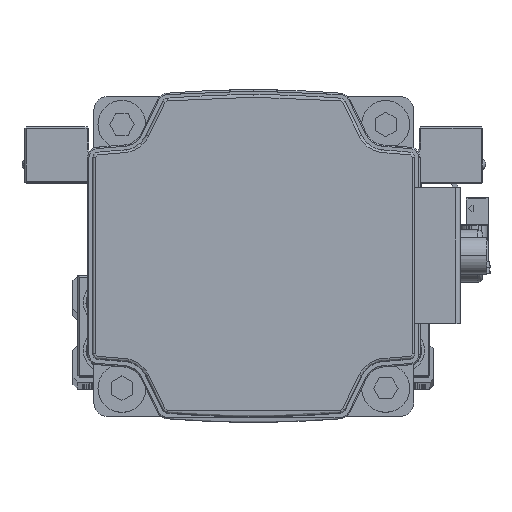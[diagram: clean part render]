
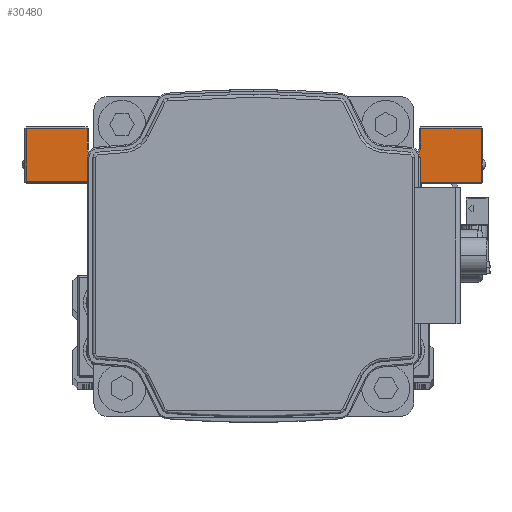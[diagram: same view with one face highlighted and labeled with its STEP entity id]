
A CAD part, top view. The second image highlights one B-rep face of the part: STEP entity #30480.
In plain terms, the highlighted planar face has unit normal (0, 0, 1) as drawn and (1, 0, 0) by its records, which use the part's own axes.
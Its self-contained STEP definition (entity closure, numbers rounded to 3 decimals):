
#274 = ORIENTED_EDGE ( 'NONE', *, *, #35941, .T. ) ;
#393 = CIRCLE ( 'NONE', #24485, 1.3 ) ;
#1546 = VERTEX_POINT ( 'NONE', #19219 ) ;
#1901 = DIRECTION ( 'NONE',  ( 0., 0., 1. ) ) ;
#2054 = DIRECTION ( 'NONE',  ( 0., 0., -1. ) ) ;
#2231 = VECTOR ( 'NONE', #35775, 1000. ) ;
#2294 = CARTESIAN_POINT ( 'NONE',  ( 45., 7.5, -19.7 ) ) ;
#2735 = LINE ( 'NONE', #15906, #9998 ) ;
#3123 = VECTOR ( 'NONE', #2054, 1000. ) ;
#3319 = EDGE_CURVE ( 'NONE', #30748, #1546, #13121, .T. ) ;
#3332 = CARTESIAN_POINT ( 'NONE',  ( 45., 14., -30. ) ) ;
#3801 = CARTESIAN_POINT ( 'NONE',  ( 45., 17.7, 31.3 ) ) ;
#3933 = LINE ( 'NONE', #17112, #17513 ) ;
#4694 = VERTEX_POINT ( 'NONE', #35457 ) ;
#5398 = VECTOR ( 'NONE', #10677, 1000. ) ;
#7088 = CARTESIAN_POINT ( 'NONE',  ( 45., 7.5, 42.7 ) ) ;
#7650 = DIRECTION ( 'NONE',  ( 0., 0., -1. ) ) ;
#8064 = DIRECTION ( 'NONE',  ( 0., 0., 1. ) ) ;
#8385 = EDGE_CURVE ( 'NONE', #33268, #22331, #15303, .T. ) ;
#8707 = DIRECTION ( 'NONE',  ( 0., 0., 1. ) ) ;
#8824 = EDGE_CURVE ( 'NONE', #12441, #33268, #14132, .T. ) ;
#8841 = DIRECTION ( 'NONE',  ( 0., 1., 0. ) ) ;
#9504 = LINE ( 'NONE', #22649, #2231 ) ;
#9674 = DIRECTION ( 'NONE',  ( 0., -1., 0. ) ) ;
#9675 = ORIENTED_EDGE ( 'NONE', *, *, #26720, .T. ) ;
#9998 = VECTOR ( 'NONE', #29044, 1000. ) ;
#10171 = VERTEX_POINT ( 'NONE', #2294 ) ;
#10527 = CARTESIAN_POINT ( 'NONE',  ( 45., 7.8, 19.7 ) ) ;
#10677 = DIRECTION ( 'NONE',  ( 0., 0., 1. ) ) ;
#11285 = PLANE ( 'NONE',  #20351 ) ;
#12441 = VERTEX_POINT ( 'NONE', #41338 ) ;
#12581 = ORIENTED_EDGE ( 'NONE', *, *, #37689, .T. ) ;
#12776 = CARTESIAN_POINT ( 'NONE',  ( 45., 17.7, 42.7 ) ) ;
#13121 = LINE ( 'NONE', #26263, #21927 ) ;
#13803 = EDGE_CURVE ( 'NONE', #41807, #10171, #9504, .T. ) ;
#14132 = CIRCLE ( 'NONE', #38206, 1.3 ) ;
#14144 = LINE ( 'NONE', #37175, #36897 ) ;
#14171 = LINE ( 'NONE', #27325, #22954 ) ;
#15303 = LINE ( 'NONE', #38362, #19608 ) ;
#15715 = CARTESIAN_POINT ( 'NONE',  ( 45., 7.8, 42.7 ) ) ;
#15906 = CARTESIAN_POINT ( 'NONE',  ( 45., 7.5, 43. ) ) ;
#16240 = VECTOR ( 'NONE', #8707, 1000. ) ;
#16506 = DIRECTION ( 'NONE',  ( -1., 0., 0. ) ) ;
#17112 = CARTESIAN_POINT ( 'NONE',  ( 45., 7.5, -42.7 ) ) ;
#17513 = VECTOR ( 'NONE', #30241, 1000. ) ;
#18016 = ORIENTED_EDGE ( 'NONE', *, *, #41066, .T. ) ;
#18289 = CARTESIAN_POINT ( 'NONE',  ( 45., 14., 30. ) ) ;
#18468 = LINE ( 'NONE', #31595, #3123 ) ;
#19219 = CARTESIAN_POINT ( 'NONE',  ( 45., 17.7, -31.3 ) ) ;
#19255 = EDGE_CURVE ( 'NONE', #4694, #41807, #14144, .T. ) ;
#19284 = VERTEX_POINT ( 'NONE', #40830 ) ;
#19608 = VECTOR ( 'NONE', #8841, 1000. ) ;
#20038 = VERTEX_POINT ( 'NONE', #12776 ) ;
#20256 = DIRECTION ( 'NONE',  ( 0., -1., 0. ) ) ;
#20351 = AXIS2_PLACEMENT_3D ( 'NONE', #24438, #37574, #8064 ) ;
#21183 = CARTESIAN_POINT ( 'NONE',  ( 45., 12.7, -30. ) ) ;
#21927 = VECTOR ( 'NONE', #39390, 1000. ) ;
#22331 = VERTEX_POINT ( 'NONE', #3801 ) ;
#22472 = ORIENTED_EDGE ( 'NONE', *, *, #3319, .T. ) ;
#22641 = ORIENTED_EDGE ( 'NONE', *, *, #19255, .T. ) ;
#22649 = CARTESIAN_POINT ( 'NONE',  ( 45., 7.5, -19.7 ) ) ;
#22954 = VECTOR ( 'NONE', #40441, 1000. ) ;
#23911 = EDGE_CURVE ( 'NONE', #35383, #12441, #27044, .T. ) ;
#24438 = CARTESIAN_POINT ( 'NONE',  ( 45., 7.5, -20. ) ) ;
#24485 = AXIS2_PLACEMENT_3D ( 'NONE', #3332, #16506, #29634 ) ;
#25073 = LINE ( 'NONE', #38209, #16240 ) ;
#25184 = CARTESIAN_POINT ( 'NONE',  ( 45., 7.5, -42.7 ) ) ;
#26077 = LINE ( 'NONE', #39199, #32099 ) ;
#26263 = CARTESIAN_POINT ( 'NONE',  ( 45., 17.7, -20. ) ) ;
#26385 = EDGE_CURVE ( 'NONE', #10171, #28430, #2735, .T. ) ;
#26720 = EDGE_CURVE ( 'NONE', #29709, #28235, #18468, .T. ) ;
#26878 = EDGE_CURVE ( 'NONE', #19284, #35383, #393, .T. ) ;
#27044 = LINE ( 'NONE', #40170, #5398 ) ;
#27325 = CARTESIAN_POINT ( 'NONE',  ( 45., 7.5, -31.3 ) ) ;
#27761 = VECTOR ( 'NONE', #20256, 1000. ) ;
#28235 = VERTEX_POINT ( 'NONE', #10527 ) ;
#28430 = VERTEX_POINT ( 'NONE', #25184 ) ;
#29044 = DIRECTION ( 'NONE',  ( 0., 0., -1. ) ) ;
#29114 = EDGE_LOOP ( 'NONE', ( #41591, #29574, #38493, #22472, #274, #35865, #29188, #34117, #38936, #29511, #18016, #9675, #12581, #22641 ) ) ;
#29188 = ORIENTED_EDGE ( 'NONE', *, *, #23911, .T. ) ;
#29511 = ORIENTED_EDGE ( 'NONE', *, *, #30562, .T. ) ;
#29558 = CARTESIAN_POINT ( 'NONE',  ( 45., 14., 31.3 ) ) ;
#29574 = ORIENTED_EDGE ( 'NONE', *, *, #26385, .T. ) ;
#29634 = DIRECTION ( 'NONE',  ( 0., 0., 1. ) ) ;
#29709 = VERTEX_POINT ( 'NONE', #15715 ) ;
#30241 = DIRECTION ( 'NONE',  ( 0., 1., 0. ) ) ;
#30480 = ADVANCED_FACE ( 'NONE', ( #40792 ), #11285, .F. ) ;
#30562 = EDGE_CURVE ( 'NONE', #22331, #20038, #25073, .T. ) ;
#30748 = VERTEX_POINT ( 'NONE', #39287 ) ;
#31429 = DIRECTION ( 'NONE',  ( -1., 0., 0. ) ) ;
#31595 = CARTESIAN_POINT ( 'NONE',  ( 45., 7.8, 20. ) ) ;
#32099 = VECTOR ( 'NONE', #9674, 1000. ) ;
#32270 = CARTESIAN_POINT ( 'NONE',  ( 45., -8.2, -19.7 ) ) ;
#33268 = VERTEX_POINT ( 'NONE', #29558 ) ;
#34117 = ORIENTED_EDGE ( 'NONE', *, *, #8824, .T. ) ;
#35383 = VERTEX_POINT ( 'NONE', #21183 ) ;
#35457 = CARTESIAN_POINT ( 'NONE',  ( 45., -8.2, 19.7 ) ) ;
#35775 = DIRECTION ( 'NONE',  ( 0., 1., 0. ) ) ;
#35865 = ORIENTED_EDGE ( 'NONE', *, *, #26878, .T. ) ;
#35941 = EDGE_CURVE ( 'NONE', #1546, #19284, #14171, .T. ) ;
#36617 = LINE ( 'NONE', #7088, #27761 ) ;
#36816 = EDGE_CURVE ( 'NONE', #28430, #30748, #3933, .T. ) ;
#36897 = VECTOR ( 'NONE', #7650, 1000. ) ;
#37175 = CARTESIAN_POINT ( 'NONE',  ( 45., -8.2, -20. ) ) ;
#37574 = DIRECTION ( 'NONE',  ( -1., 0., 0. ) ) ;
#37689 = EDGE_CURVE ( 'NONE', #28235, #4694, #26077, .T. ) ;
#38206 = AXIS2_PLACEMENT_3D ( 'NONE', #18289, #31429, #1901 ) ;
#38209 = CARTESIAN_POINT ( 'NONE',  ( 45., 17.7, -20. ) ) ;
#38362 = CARTESIAN_POINT ( 'NONE',  ( 45., 7.5, 31.3 ) ) ;
#38493 = ORIENTED_EDGE ( 'NONE', *, *, #36816, .T. ) ;
#38936 = ORIENTED_EDGE ( 'NONE', *, *, #8385, .T. ) ;
#39199 = CARTESIAN_POINT ( 'NONE',  ( 45., 7.5, 19.7 ) ) ;
#39287 = CARTESIAN_POINT ( 'NONE',  ( 45., 17.7, -42.7 ) ) ;
#39390 = DIRECTION ( 'NONE',  ( 0., 0., 1. ) ) ;
#40170 = CARTESIAN_POINT ( 'NONE',  ( 45., 12.7, 30. ) ) ;
#40441 = DIRECTION ( 'NONE',  ( 0., -1., 0. ) ) ;
#40792 = FACE_OUTER_BOUND ( 'NONE', #29114, .T. ) ;
#40830 = CARTESIAN_POINT ( 'NONE',  ( 45., 14., -31.3 ) ) ;
#41066 = EDGE_CURVE ( 'NONE', #20038, #29709, #36617, .T. ) ;
#41338 = CARTESIAN_POINT ( 'NONE',  ( 45., 12.7, 30. ) ) ;
#41591 = ORIENTED_EDGE ( 'NONE', *, *, #13803, .T. ) ;
#41807 = VERTEX_POINT ( 'NONE', #32270 ) ;
